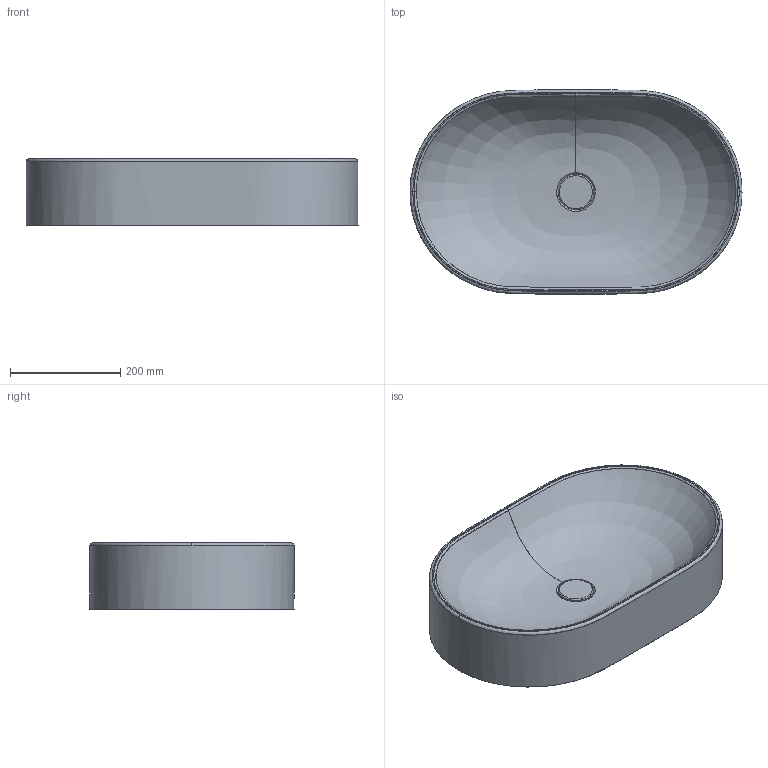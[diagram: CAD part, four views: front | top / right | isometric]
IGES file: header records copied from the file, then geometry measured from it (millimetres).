
Global section: file name: C:\Users\FULVIO\Desktop\Nic\2019\Settembre\Lavabi Pin\Pin lavabo 60x37\Modello 3D\Pin 60x37.igs; native system: Rhinoceros ( Mar  6 2018 ); preprocessor: Trout Lake IGES 012 Mar  6 2018; date: 190917.094159; units: millimetre
Bounding box: 601.4 x 370.01 x 120 mm (x, y, z)
Surface area: 627733.4 mm2 (no closed solid volume)
Topology: 0 solids, 0 shells, 14 faces, 583 edges, 578 vertices
Faces by surface type: bspline 14
